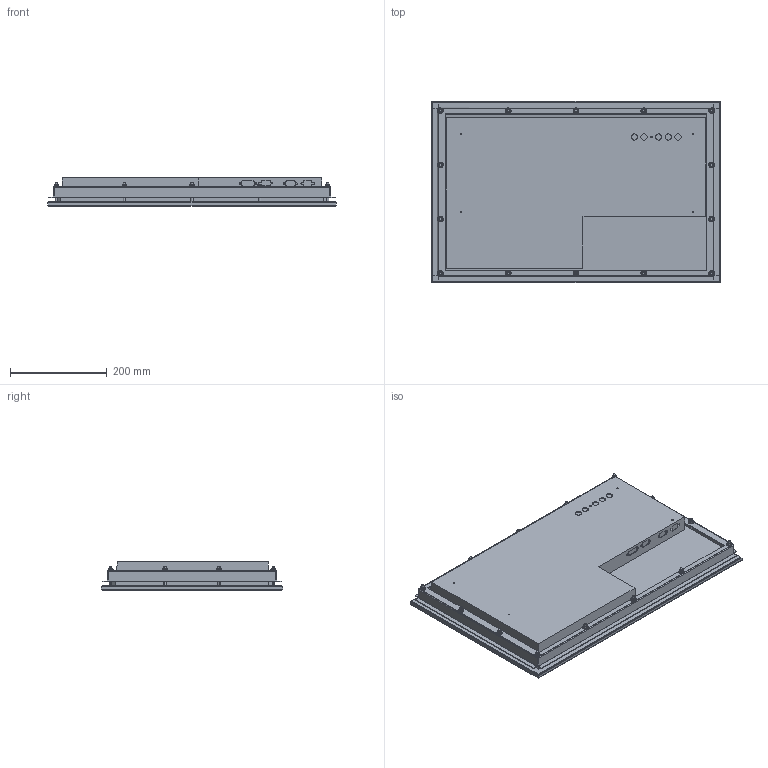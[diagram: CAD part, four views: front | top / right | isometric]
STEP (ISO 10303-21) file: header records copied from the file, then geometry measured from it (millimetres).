
FILE_DESCRIPTION (( 'STEP AP214' ), '1' );
FILE_NAME ('23 inch Panel Mount Monitor, HIS-ML23-xxxD.STEP', '2018-06-04T13:54:51', ( '' ), ( '' ), 'SwSTEP 2.0', 'SolidWorks 2017', '' );
FILE_SCHEMA (( 'AUTOMOTIVE_DESIGN' ));
Length unit declared in the file: millimetre
Products named in the file (4): M5 Nut, 30008_M5 Nut - 30008; Collar, 10914; Monitor, 23D; 23 inch Panel Mount Monitor, HIS-ML23-xxxD
Assembly tree (16 placements, depth 2):
  23 inch Panel Mount Monitor, HIS-ML23-xxxD
    Monitor, 23D
    Collar, 10914
    M5 Nut, 30008_M5 Nut - 30008  x14
Bounding box: 596.9 x 374.65 x 58.45 mm (x, y, z)
Volume: 9498502.7 mm3; surface area: 1394960.6 mm2
Topology: 18 solids, 18 shells, 766 faces, 1717 edges, 1022 vertices
Faces by surface type: plane 283, cylinder 187, cone 176, bspline 92, torus 28
Entity records: 10659 total; most frequent: CARTESIAN_POINT 2378, DIRECTION 1717, ORIENTED_EDGE 1598, EDGE_CURVE 799, AXIS2_PLACEMENT_3D 615, VERTEX_POINT 502, VECTOR 487, LINE 487
